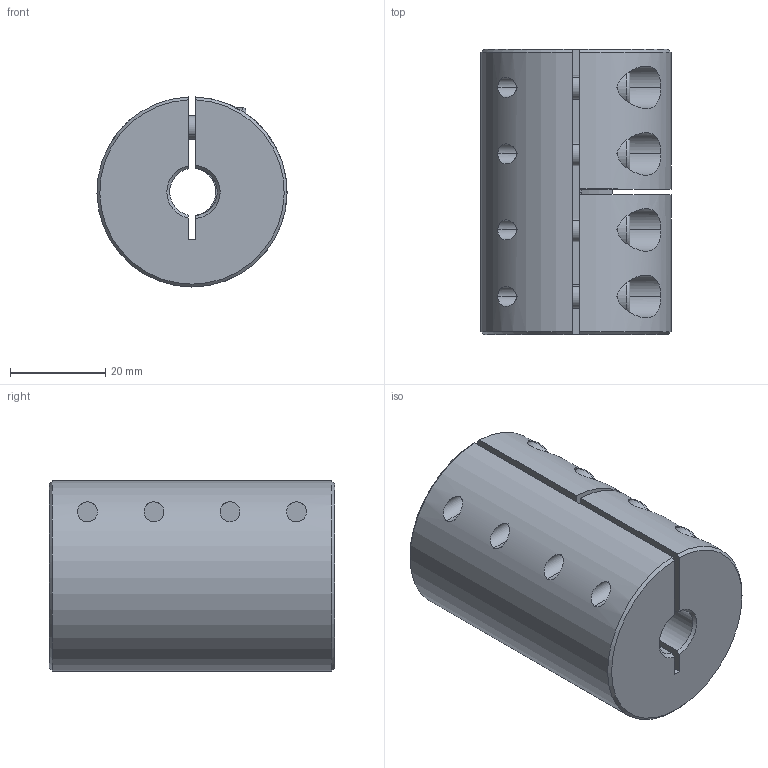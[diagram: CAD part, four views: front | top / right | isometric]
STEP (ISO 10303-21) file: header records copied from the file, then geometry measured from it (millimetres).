
FILE_DESCRIPTION (( 'STEP AP214' ), '1' );
FILE_NAME ('LL-B-D40L60-10-10½¨Ä£.STEP', '2022-07-22T00:51:43', ( '' ), ( '' ), 'SwSTEP 2.0', 'SolidWorks 2022', '' );
FILE_SCHEMA (( 'AUTOMOTIVE_DESIGN' ));
Length unit declared in the file: millimetre
Products named in the file (1): LL-B-D40L60-10-10膘耀
Bounding box: 40 x 60 x 39.99 mm (x, y, z)
Volume: 66790.9 mm3; surface area: 17467.9 mm2
Topology: 1 solids, 1 shells, 182 faces, 463 edges, 291 vertices
Faces by surface type: plane 88, cylinder 71, cone 15, torus 8
Entity records: 6015 total; most frequent: CARTESIAN_POINT 1525, DIRECTION 971, ORIENTED_EDGE 910, EDGE_CURVE 455, AXIS2_PLACEMENT_3D 377, VERTEX_POINT 291, VECTOR 217, LINE 217
